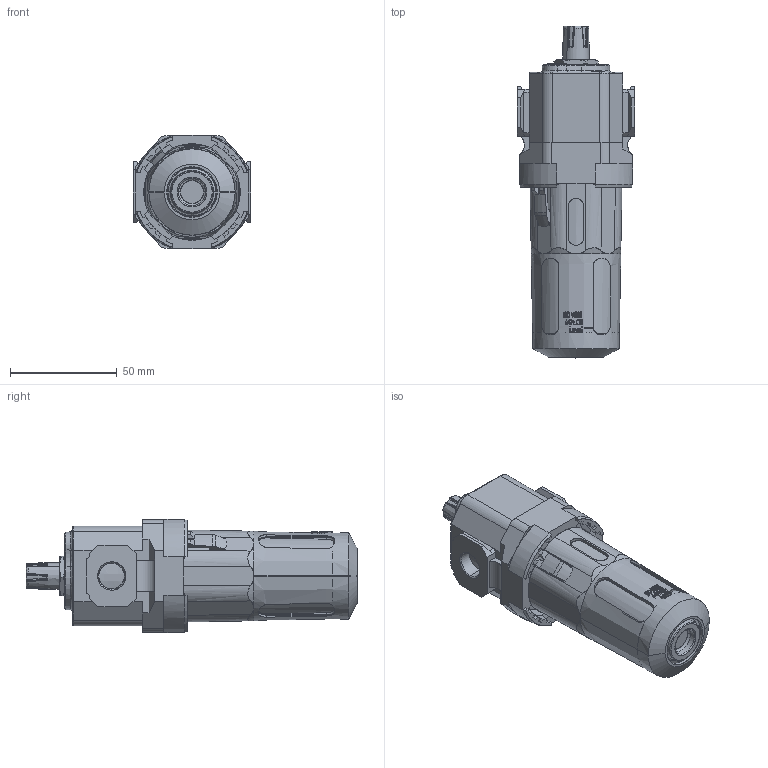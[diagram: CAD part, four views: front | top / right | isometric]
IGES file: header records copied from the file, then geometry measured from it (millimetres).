
Start section: SolidWorks IGES file using analytic representation for surfaces
Global section: file name: C:\Documents and Settings\Administrator\桌面\UAC30L.IGS,1; native system: 5HSolidWorks 2012; preprocessor: SolidWorks 2012; author: Administrator; date: 140217.145126; units: millimetre
Bounding box: 55 x 155.66 x 53 mm (x, y, z)
Surface area: 71695.6 mm2 (no closed solid volume)
Topology: 0 solids, 0 shells, 999 faces, 13901 edges, 16477 vertices
Faces by surface type: bspline 664, revolution 335
